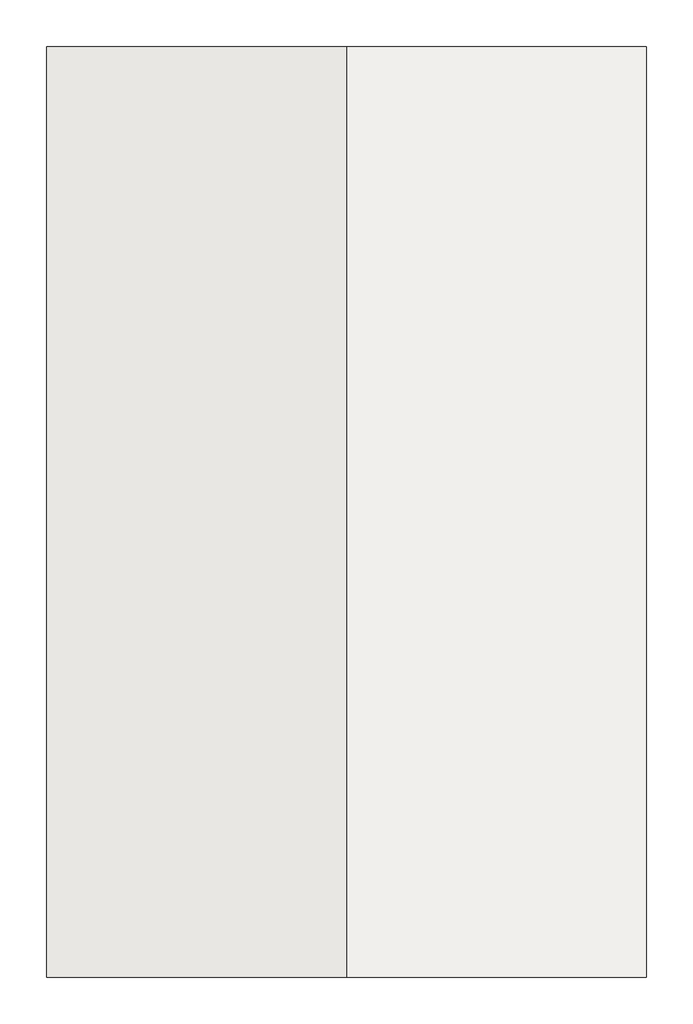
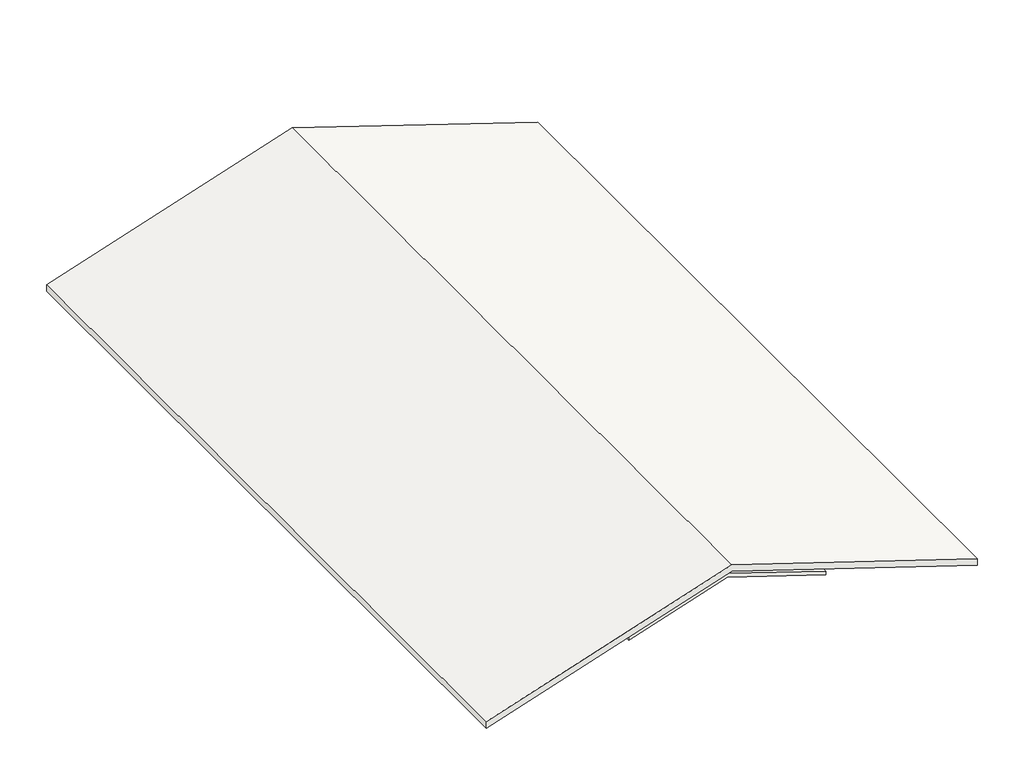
# One storey: 2 coverings, 2 roofs.
"""IFC4 building model written with IfcOpenShell, lengths in millimetres."""

from ifc_helpers import new_model, si_unit, frame, origin, place, context, project, spatial, polyline, outline, extrude, faceted_brep, element, save

model = new_model("IFC4")

# Units and contexts
model_context = context("Model", 3, world=origin())
ifc_project = project(units=[si_unit("LENGTHUNIT", "METRE", prefix="MILLI")], contexts=[model_context])

# Site, building, storey
site = spatial("IfcSite", under=ifc_project)
building = spatial("IfcBuilding", under=site)
storey = spatial("IfcBuildingStorey", under=building, Name="Кровля", Elevation=6860.0)

# Coverings
placement = place(None, origin())
element("IfcCovering", 1, ObjectType="ADSK_Потолок_Полимерное покрытие", at=placement, inside=storey, context=model_context, shape_type="Brep", body=[
    faceted_brep([(4606.0630762, 23865.0, 5377.2546725), (4606.0630762, 21133.75, 5377.2546725), (4639.0630765, 21133.75, 5387.9770226), (4639.0630765, 20866.75, 5387.9770226), (4606.0630762, 20866.75, 5377.2546725), (4606.0630762, 18133.5, 5377.2546725), (4639.0630765, 18133.5, 5387.9770226), (4639.0630765, 17866.5, 5387.9770226), (4606.0630762, 17866.5, 5377.2546725), (4606.0630762, 15133.5, 5377.2546725), (4639.0630765, 15133.5, 5387.9770226), (4639.0630765, 14866.5, 5387.9770226), (4605.0630762, 14866.5, 5376.9297528), (4605.0630762, 12133.5, 5376.9297528), (4639.0630765, 12133.5, 5387.9770226), (4639.0630765, 11866.5, 5387.9770226), (4606.0630762, 11866.5, 5377.2546725), (4606.0630762, 9226.0, 5377.2546725), (8400.0, 9226.0, 6609.9795053), (8400.0, 23865.0, 6609.9795053), (4606.0630762, 23865.0, 5366.7400502), (8400.0, 23865.0, 6599.4648831), (8400.0, 9226.0, 6599.4648831), (4606.0630762, 9226.0, 5366.7400502), (4606.0630762, 11866.5, 5366.7400502), (4639.0630765, 11866.5, 5377.4624003), (4639.0630765, 12133.5, 5377.4624003), (4605.0630762, 12133.5, 5366.4151306), (4605.0630762, 14866.5, 5366.4151306), (4639.0630765, 14866.5, 5377.4624003), (4639.0630765, 15133.5, 5377.4624003), (4606.0630762, 15133.5, 5366.7400502), (4606.0630762, 17866.5, 5366.7400502), (4639.0630765, 17866.5, 5377.4624003), (4639.0630765, 18133.5, 5377.4624003), (4606.0630762, 18133.5, 5366.7400502), (4606.0630762, 20866.75, 5366.7400502), (4639.0630765, 20866.75, 5377.4624003), (4639.0630765, 21133.75, 5377.4624003), (4606.0630762, 21133.75, 5366.7400502)], [[[0, 1, 2, 3, 4, 5, 6, 7, 8, 9, 10, 11, 12, 13, 14, 15, 16, 17, 18, 19]], [[20, 21, 22, 23, 24, 25, 26, 27, 28, 29, 30, 31, 32, 33, 34, 35, 36, 37, 38, 39]], [[1, 0, 20, 39]], [[2, 1, 39, 38]], [[3, 2, 38, 37]], [[4, 3, 37, 36]], [[5, 4, 36, 35]], [[6, 5, 35, 34]], [[7, 6, 34, 33]], [[8, 7, 33, 32]], [[9, 8, 32, 31]], [[10, 9, 31, 30]], [[11, 10, 30, 29]], [[12, 11, 29, 28]], [[13, 12, 28, 27]], [[14, 13, 27, 26]], [[15, 14, 26, 25]], [[16, 15, 25, 24]], [[17, 16, 24, 23]], [[18, 17, 23, 22]], [[0, 19, 21, 20]], [[19, 18, 22, 21]]]),
])
element("IfcCovering", 2, ObjectType="ADSK_Потолок_Полимерное покрытие", at=placement, inside=storey, context=model_context, shape_type="Brep", body=[
    faceted_brep([(8400.0, 23865.0, 6610.0), (8400.0, 9226.0, 6610.0), (11694.0, 9226.0, 5539.7145206), (11694.0, 10525.9970271, 5539.7145206), (12194.0630762, 10525.9970271, 5377.2341778), (12194.0630762, 11867.0, 5377.2341778), (12161.5, 11867.0, 5387.8145626), (12161.5, 12133.0, 5387.8145626), (12194.0, 12133.0, 5377.2546725), (12194.0, 14867.0, 5377.2546725), (12161.5, 14867.0, 5387.8145626), (12161.5, 15133.0, 5387.8145626), (12194.0, 15133.0, 5377.2546725), (12194.0, 17867.0, 5377.2546725), (12161.5, 17867.0, 5387.8145626), (12161.5, 18133.0, 5387.8145626), (12194.0, 18133.0, 5377.2546725), (12194.0, 20866.5, 5377.2546725), (12161.0, 20866.5, 5387.9770225), (12161.0, 21133.5, 5387.9770225), (12194.0, 21133.5, 5377.2546725), (12194.0, 23865.0, 5377.2546725), (8400.0, 23865.0, 6599.4853778), (12194.0, 23865.0, 5366.7400502), (12194.0, 21133.5, 5366.7400502), (12161.0, 21133.5, 5377.4624002), (12161.0, 20866.5, 5377.4624002), (12194.0, 20866.5, 5366.7400502), (12194.0, 18133.0, 5366.7400502), (12161.5, 18133.0, 5377.2999404), (12161.5, 17867.0, 5377.2999404), (12194.0, 17867.0, 5366.7400502), (12194.0, 15133.0, 5366.7400502), (12161.5, 15133.0, 5377.2999404), (12161.5, 14867.0, 5377.2999404), (12194.0, 14867.0, 5366.7400502), (12194.0, 12133.0, 5366.7400502), (12161.5, 12133.0, 5377.2999404), (12161.5, 11867.0, 5377.2999404), (12194.0630762, 11867.0, 5366.7195555), (12194.0630762, 10525.9970271, 5366.7195555), (11694.0, 10525.9970271, 5529.1998984), (11694.0, 9226.0, 5529.1998984), (8400.0, 9226.0, 6599.4853778)], [[[0, 1, 2, 3, 4, 5, 6, 7, 8, 9, 10, 11, 12, 13, 14, 15, 16, 17, 18, 19, 20, 21]], [[22, 23, 24, 25, 26, 27, 28, 29, 30, 31, 32, 33, 34, 35, 36, 37, 38, 39, 40, 41, 42, 43]], [[1, 0, 22, 43]], [[2, 1, 43, 42]], [[3, 2, 42, 41]], [[4, 3, 41, 40]], [[5, 4, 40, 39]], [[6, 5, 39, 38]], [[7, 6, 38, 37]], [[8, 7, 37, 36]], [[9, 8, 36, 35]], [[10, 9, 35, 34]], [[11, 10, 34, 33]], [[12, 11, 33, 32]], [[13, 12, 32, 31]], [[14, 13, 31, 30]], [[15, 14, 30, 29]], [[16, 15, 29, 28]], [[17, 16, 28, 27]], [[18, 17, 27, 26]], [[19, 18, 26, 25]], [[20, 19, 25, 24]], [[21, 20, 24, 23]], [[0, 21, 23, 22]]]),
])

# Roofs
element("IfcRoof", 3, ObjectType="Кровельная сэндвич-панель", at=placement, inside=storey, context=model_context, shape_type="Brep", body=[
    faceted_brep([(-562.0, -400.0, 3948.0), (-562.0, -400.0, 3698.0), (8400.0, -400.0, 6610.0), (17362.0, -400.0, 3698.0), (17362.0, -400.0, 3948.0), (8400.0, -400.0, 6860.0), (-562.0, 27400.0, 3948.0), (-562.0, 27400.0, 3698.0), (8400.0, 27400.0, 6860.0), (17362.0, 27400.0, 3948.0), (17362.0, 27400.0, 3698.0), (8400.0, 27400.0, 6610.0), (8400.0, 27100.0, 6610.0), (8400.0, 27300.0, 6610.0)], [[[0, 1, 2, 3, 4, 5]], [[1, 0, 6, 7]], [[7, 6, 8, 9, 10, 11]], [[4, 3, 10, 9]], [[4, 9, 8, 5]], [[10, 3, 2, 12, 13, 11]], [[6, 0, 5, 8]], [[1, 7, 11, 13, 12, 2]]]),
])
element("IfcRoof", 4, ObjectType="Кровельная сэндвич-панель 2", at=placement, inside=storey, context=model_context, shape_type="SweptSolid", body=[
    extrude(outline(polyline([(6344.6725964, 8400.0), (5175.9054731, 4800.0), (5025.9054731, 4800.0), (6194.6725964, 8400.0), (5025.9054731, 12000.0), (5175.9054731, 12000.0), (6344.6725964, 8400.0)])), frame((0.0, -100.0, 0.0), z_axis=(0.0, 1.0, 0.0), x_axis=(0.0, 0.0, 1.0)), (0.0, 0.0, 1.0), 1925.0),
])

save(model, "model.ifc")
